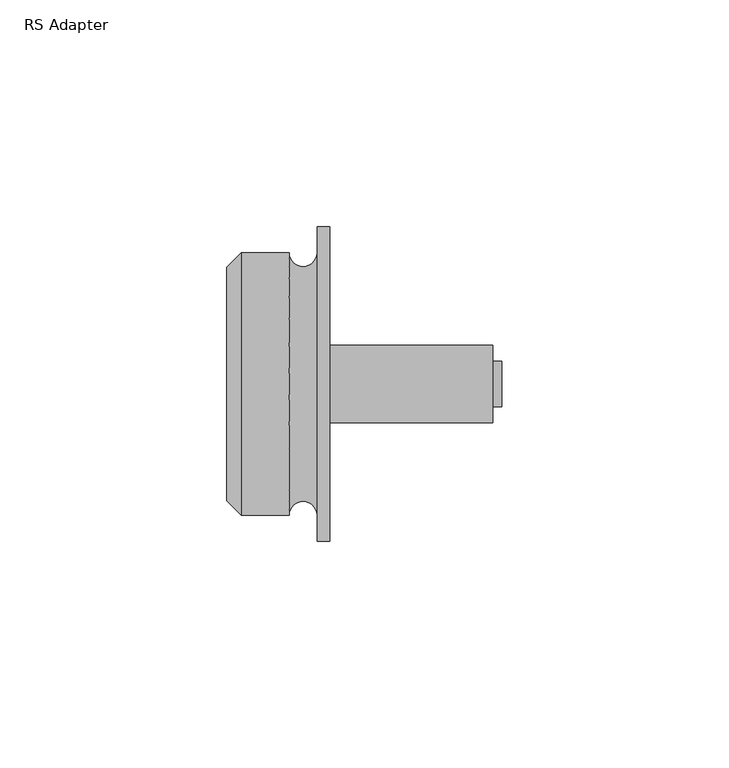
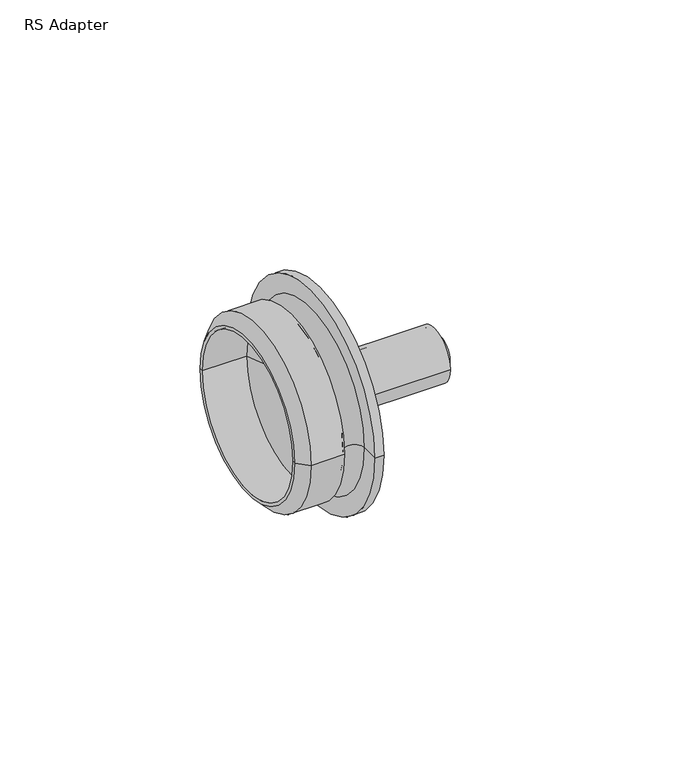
"""IFC4 building model written with IfcOpenShell, lengths in millimetres: pipe fitting geometry, RS Adapter : Superpipe RS Press Adapter."""

from ifc_helpers import new_model, si_unit, point, frame, origin, place, context, project, spatial, polyline, circle_curve, ellipse_curve, trimmed, source, transform, mapped, element, save
from ifc_brep_helpers import plane_surface, cylinder_surface, revolved_surface, advanced_brep


def rs_adapter_b4bbd465(model_context):
    return source(origin(), model_context, "Body", "AdvancedBrep", [
        advanced_brep(
        [(58.8, -8.5, 0.0), (58.8, 8.5, 0.0), (58.8, 7.5, 0.0), (58.8, -7.5, 0.0), (22.8, 7.5, 0.0), (22.8, -7.5, 0.0), (22.8, 8.5, 0.0), (22.8, -8.5, 0.0)],
        [
            (0, 1, circle_curve(frame((58.8, 0.0, 0.0), z_axis=(1.0, 0.0, 0.0), x_axis=(0.0, 1.0, 0.0)), 8.5)),
            (1, 2),
            (2, 3, circle_curve(frame((58.8, 0.0, 0.0), z_axis=(-1.0, 0.0, 0.0), x_axis=(0.0, 1.0, 0.0)), 7.5)),
            (3, 0),
            (2, 4),
            (4, 5, circle_curve(frame((22.8, 0.0, 0.0), z_axis=(-1.0, 0.0, 0.0), x_axis=(0.0, 1.0, 0.0)), 7.5)),
            (5, 3),
            (4, 6),
            (6, 7, circle_curve(frame((22.8, 0.0, 0.0), z_axis=(-1.0, 0.0, 0.0), x_axis=(0.0, 1.0, 0.0)), 8.5)),
            (7, 5),
            (6, 1),
            (0, 7),
            (6, 7, circle_curve(frame((22.8, 0.0, 0.0), z_axis=(1.0, 0.0, 0.0), x_axis=(0.0, 1.0, 0.0)), 8.5)),
            (0, 1, circle_curve(frame((58.8, 0.0, 0.0), z_axis=(-1.0, 0.0, 0.0), x_axis=(0.0, 1.0, 0.0)), 8.5)),
            (4, 5, circle_curve(frame((22.8, 0.0, 0.0), z_axis=(1.0, 0.0, 0.0), x_axis=(0.0, 1.0, 0.0)), 7.5)),
            (2, 3, circle_curve(frame((58.8, 0.0, 0.0), z_axis=(1.0, 0.0, 0.0), x_axis=(0.0, 1.0, 0.0)), 7.5)),
        ],
        [
            plane_surface(frame((58.8, 0.0, 0.0), z_axis=(1.0, 0.0, 0.0), x_axis=(0.0, 1.0, 0.0))),
            revolved_surface(polyline([(22.799999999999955, 7.5, 0.0), (58.799999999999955, 7.5, 0.0)]), (1996.0, 0.0, 0.0), (-1.0, 0.0, 0.0)),
            plane_surface(frame((22.8, 0.0, 0.0), z_axis=(-1.0, 0.0, 0.0), x_axis=(0.0, 1.0, 0.0))),
            cylinder_surface(frame((1996.0, 0.0, 0.0), z_axis=(-1.0, 0.0, 0.0), x_axis=(0.0, 1.0, 0.0)), 8.5),
        ],
        [
            (0, [[1, 2, 3, 4]]),
            (1, [[-3, 5, 6, 7]]),
            (2, [[-6, 8, 9, 10]]),
            (3, [[-9, 11, -1, 12]]),
            (3, [[13, -12, 14, -11]]),
            (2, [[15, -10, -13, -8]]),
            (1, [[16, -7, -15, -5]]),
            (0, [[-14, -4, -16, -2]]),
        ],
    ),
        advanced_brep(
        [(60.8, -5.0, 0.0), (60.8, 5.0, 0.0), (60.8, 3.5, 0.0), (60.8, -3.5, 0.0), (22.8, 3.5, 0.0), (22.8, -3.5, 0.0), (22.8, 5.0, 0.0), (22.8, -5.0, 0.0)],
        [
            (0, 1, circle_curve(frame((60.8, 0.0, 0.0), z_axis=(1.0, 0.0, 0.0), x_axis=(0.0, 1.0, 0.0)), 5.0)),
            (1, 2),
            (2, 3, circle_curve(frame((60.8, 0.0, 0.0), z_axis=(-1.0, 0.0, 0.0), x_axis=(0.0, 1.0, 0.0)), 3.5)),
            (3, 0),
            (2, 4),
            (4, 5, circle_curve(frame((22.8, 0.0, 0.0), z_axis=(-1.0, 0.0, 0.0), x_axis=(0.0, 1.0, 0.0)), 3.5)),
            (5, 3),
            (4, 6),
            (6, 7, circle_curve(frame((22.8, 0.0, 0.0), z_axis=(-1.0, 0.0, 0.0), x_axis=(0.0, 1.0, 0.0)), 5.0)),
            (7, 5),
            (6, 1),
            (0, 7),
            (6, 7, circle_curve(frame((22.8, 0.0, 0.0), z_axis=(1.0, 0.0, 0.0), x_axis=(0.0, 1.0, 0.0)), 5.0)),
            (0, 1, circle_curve(frame((60.8, 0.0, 0.0), z_axis=(-1.0, 0.0, 0.0), x_axis=(0.0, 1.0, 0.0)), 5.0)),
            (4, 5, circle_curve(frame((22.8, 0.0, 0.0), z_axis=(1.0, 0.0, 0.0), x_axis=(0.0, 1.0, 0.0)), 3.5)),
            (2, 3, circle_curve(frame((60.8, 0.0, 0.0), z_axis=(1.0, 0.0, 0.0), x_axis=(0.0, 1.0, 0.0)), 3.5)),
        ],
        [
            plane_surface(frame((60.8, 0.0, 0.0), z_axis=(1.0, 0.0, 0.0), x_axis=(0.0, 1.0, 0.0))),
            revolved_surface(polyline([(22.799999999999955, 3.5, 0.0), (60.799999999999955, 3.5, 0.0)]), (1996.0, 0.0, 0.0), (-1.0, 0.0, 0.0)),
            plane_surface(frame((22.8, 0.0, 0.0), z_axis=(-1.0, 0.0, 0.0), x_axis=(0.0, 1.0, 0.0))),
            cylinder_surface(frame((1996.0, 0.0, 0.0), z_axis=(-1.0, 0.0, 0.0), x_axis=(0.0, 1.0, 0.0)), 5.0),
        ],
        [
            (0, [[1, 2, 3, 4]]),
            (1, [[-3, 5, 6, 7]]),
            (2, [[-6, 8, 9, 10]]),
            (3, [[-9, 11, -1, 12]]),
            (3, [[13, -12, 14, -11]]),
            (2, [[15, -10, -13, -8]]),
            (1, [[16, -7, -15, -5]]),
            (0, [[-14, -4, -16, -2]]),
        ],
    ),
        advanced_brep(
        [(20.0, -34.75, 0.0), (20.0, 34.75, 0.0), (22.8, 34.75, 0.0), (22.8, -34.75, 0.0), (20.0, -29.0, 0.0), (20.0, 29.0, 0.0), (22.8, 3.5, 0.0), (22.8, -3.5, 0.0), (0.0, -25.8, 0.0), (0.0, 25.8, 0.0), (3.2, 29.0, 0.0), (3.2, -29.0, 0.0), (0.0, -24.8, 0.0), (0.0, 24.8, 0.0), (13.8, -29.0, 0.0), (13.8, 29.0, 0.0), (14.0, -24.8, 0.0), (14.0, 24.8, 0.0)],
        [
            (0, 1, circle_curve(frame((20.0, 0.0, 0.0), z_axis=(1.0, 0.0, 0.0), x_axis=(0.0, 1.0, 0.0)), 34.75)),
            (1, 2),
            (2, 3, circle_curve(frame((22.8, 0.0, 0.0), z_axis=(-1.0, 0.0, 0.0), x_axis=(0.0, 1.0, 0.0)), 34.75)),
            (3, 0),
            (1, 0, circle_curve(frame((20.0, 0.0, 0.0), z_axis=(1.0, 0.0, 0.0), x_axis=(0.0, 1.0, 0.0)), 34.75)),
            (3, 2, circle_curve(frame((22.8, 0.0, 0.0), z_axis=(-1.0, 0.0, 0.0), x_axis=(0.0, 1.0, 0.0)), 34.75)),
            (0, 4),
            (4, 5, circle_curve(frame((20.0, 0.0, 0.0), z_axis=(1.0, 0.0, 0.0), x_axis=(0.0, 1.0, 0.0)), 29.0)),
            (5, 1),
            (5, 4, circle_curve(frame((20.0, 0.0, 0.0), z_axis=(1.0, 0.0, 0.0), x_axis=(0.0, 1.0, 0.0)), 29.0)),
            (2, 6),
            (6, 7, circle_curve(frame((22.8, 0.0, 0.0), z_axis=(-1.0, 0.0, 0.0), x_axis=(0.0, 1.0, 0.0)), 3.5)),
            (7, 3),
            (7, 6, circle_curve(frame((22.8, 0.0, 0.0), z_axis=(-1.0, 0.0, 0.0), x_axis=(0.0, 1.0, 0.0)), 3.5)),
            (8, 9, circle_curve(frame((0.0, 0.0, 0.0), z_axis=(1.0, 0.0, 0.0), x_axis=(0.0, 1.0, 0.0)), 25.8)),
            (9, 10),
            (10, 11, circle_curve(frame((3.2, 0.0, 0.0), z_axis=(-1.0, 0.0, 0.0), x_axis=(0.0, 1.0, 0.0)), 29.0)),
            (11, 8),
            (9, 8, circle_curve(frame((0.0, 0.0, 0.0), z_axis=(1.0, 0.0, 0.0), x_axis=(0.0, 1.0, 0.0)), 25.8)),
            (11, 10, circle_curve(frame((3.2, 0.0, 0.0), z_axis=(-1.0, 0.0, 0.0), x_axis=(0.0, 1.0, 0.0)), 29.0)),
            (8, 12),
            (12, 13, circle_curve(frame((0.0, 0.0, 0.0), z_axis=(1.0, 0.0, 0.0), x_axis=(0.0, 1.0, 0.0)), 24.8)),
            (13, 9),
            (13, 12, circle_curve(frame((0.0, 0.0, 0.0), z_axis=(1.0, 0.0, 0.0), x_axis=(0.0, 1.0, 0.0)), 24.8)),
            (4, 14, circle_curve(frame((16.9, -29.0, 0.0), z_axis=(0.0, 0.0, 1.0), x_axis=(1.0, 0.0, 0.0)), 3.1)),
            (14, 15, circle_curve(frame((13.8, 0.0, 0.0), z_axis=(1.0, 0.0, 0.0), x_axis=(0.0, 1.0, 0.0)), 29.0)),
            (15, 5, circle_curve(frame((16.9, 29.0, 0.0), z_axis=(0.0, 0.0, 1.0), x_axis=(1.0, 0.0, 0.0)), 3.1)),
            (15, 14, circle_curve(frame((13.8, 0.0, 0.0), z_axis=(1.0, 0.0, 0.0), x_axis=(0.0, 1.0, 0.0)), 29.0)),
            (10, 15),
            (14, 11),
            (12, 16),
            (16, 17, circle_curve(frame((14.0, 0.0, 0.0), z_axis=(1.0, 0.0, 0.0), x_axis=(0.0, 1.0, 0.0)), 24.8)),
            (17, 13),
            (17, 16, circle_curve(frame((14.0, 0.0, 0.0), z_axis=(1.0, 0.0, 0.0), x_axis=(0.0, 1.0, 0.0)), 24.8)),
            (16, 7),
            (6, 17),
        ],
        [
            cylinder_surface(frame((1980.8, 0.0, 0.0), z_axis=(-1.0, 0.0, 0.0), x_axis=(0.0, 1.0, 0.0)), 34.75),
            plane_surface(frame((20.0, 0.0, 0.0), z_axis=(-1.0, 0.0, 0.0), x_axis=(0.0, 1.0, 0.0))),
            plane_surface(frame((22.8, 0.0, 0.0), z_axis=(1.0, 0.0, 0.0), x_axis=(0.0, 1.0, 0.0))),
            revolved_surface(polyline([(3.2, 29.0, 0.0), (0.0, 25.8, 0.0)]), (1980.8, 0.0, 0.0), (-1.0, 0.0, 0.0)),
            plane_surface(frame((0.0, 0.0, 0.0), z_axis=(-1.0, 0.0, 0.0), x_axis=(0.0, 1.0, 0.0))),
            revolved_surface(trimmed(ellipse_curve(frame((16.9, 29.0, 0.0), z_axis=(0.0, 0.0, -1.0), x_axis=(1.0, 0.0, 0.0)), 3.1, 3.1), [point((20.0, 29.0, 0.0))], [point((13.8, 29.0, 0.0))], True, "CARTESIAN"), (1980.8, 0.0, 0.0), (-1.0, 0.0, 0.0)),
            cylinder_surface(frame((1980.8, 0.0, 0.0), z_axis=(-1.0, 0.0, 0.0), x_axis=(0.0, 1.0, 0.0)), 29.0),
            revolved_surface(polyline([(0.0, 24.8, 0.0), (14.0, 24.8, 0.0)]), (2007.0, 0.0, 0.0), (-1.0, 0.0, 0.0)),
            revolved_surface(polyline([(14.0, 24.8, 0.0), (22.8, 3.5, 0.0)]), (2007.0, 0.0, 0.0), (-1.0, 0.0, 0.0)),
        ],
        [
            (0, [[1, 2, 3, 4]]),
            (0, [[-2, 5, -4, 6]]),
            (1, [[-1, 7, 8, 9]]),
            (1, [[-5, -9, 10, -7]]),
            (2, [[-3, 11, 12, 13]]),
            (2, [[-6, -13, 14, -11]]),
            (3, [[15, 16, 17, 18]]),
            (3, [[-16, 19, -18, 20]]),
            (4, [[-15, 21, 22, 23]]),
            (4, [[-19, -23, 24, -21]]),
            (5, [[-8, 25, 26, 27]]),
            (5, [[-10, -27, 28, -25]]),
            (6, [[-17, 29, -26, 30]]),
            (6, [[-20, -30, -28, -29]]),
            (7, [[31, 32, 33, -22]]),
            (7, [[-31, -24, -33, 34]]),
            (8, [[-32, 35, -12, 36]]),
            (8, [[-34, -36, -14, -35]]),
        ],
    ),
    ])


if __name__ == "__main__":
    model = new_model("IFC4")
    model_context = context("Model", 3, world=origin())
    ifc_project = project(units=[si_unit("LENGTHUNIT", "METRE", prefix="MILLI")], contexts=[model_context])
    site = spatial("IfcSite", under=ifc_project)
    building = spatial("IfcBuilding", under=site)
    placement = place(None, origin())
    rs_adapter_shape = rs_adapter_b4bbd465(model_context)
    element("IfcPipeFitting", 1, ObjectType="RS Adapter : Superpipe RS Press Adapter", at=placement, inside=building, context=model_context, shape_type="MappedRepresentation", body=[
        mapped(rs_adapter_shape, transform((0.0, 0.0, 0.0), x_axis=(1.0, 0.0, 0.0), y_axis=(0.0, 1.0, 0.0), z_axis=(0.0, 0.0, 1.0))),
    ])
    save(model, "model.ifc")
